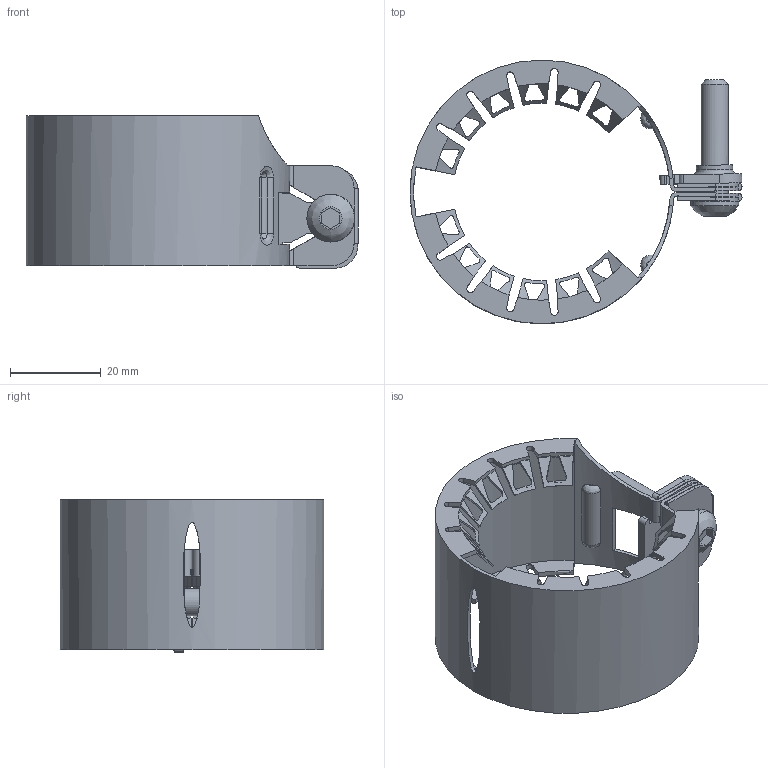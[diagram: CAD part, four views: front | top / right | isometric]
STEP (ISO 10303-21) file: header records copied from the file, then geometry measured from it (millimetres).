
FILE_DESCRIPTION(/* description */ (''),/* implementation_level */ '2;1');
FILE_NAME(/* name */ 'H:\Geberit-Teile\Export\Haltekralle\stp\390108.stp',/* time_stamp */ '2016-03-31T11:28:46+02:00',/* author */ ('seihe2'),/* organization */ (''),/* preprocessor_version */ 'ST-DEVELOPER v15.2',/* originating_system */ 'Autodesk Inventor 2014',/* authorisation */ '');
FILE_SCHEMA (('AUTOMOTIVE_DESIGN { 1 0 10303 214 3 1 1 }'));
Length unit declared in the file: millimetre
Products named in the file (1): 390108
Bounding box: 73 x 58 x 33.5 mm (x, y, z)
Volume: 8628.3 mm3; surface area: 16520.6 mm2
Topology: 1 solids, 1 shells, 371 faces, 1086 edges, 705 vertices
Faces by surface type: plane 187, cylinder 132, cone 37, bspline 14, torus 1
Full cylindrical faces by diameter (mm): 6 x1, 8 x1, 10.5 x1
Entity records: 13797 total; most frequent: CARTESIAN_POINT 3822, ORIENTED_EDGE 2152, DIRECTION 1908, EDGE_CURVE 1076, VERTEX_POINT 701, AXIS2_PLACEMENT_3D 664, LINE 580, VECTOR 580
